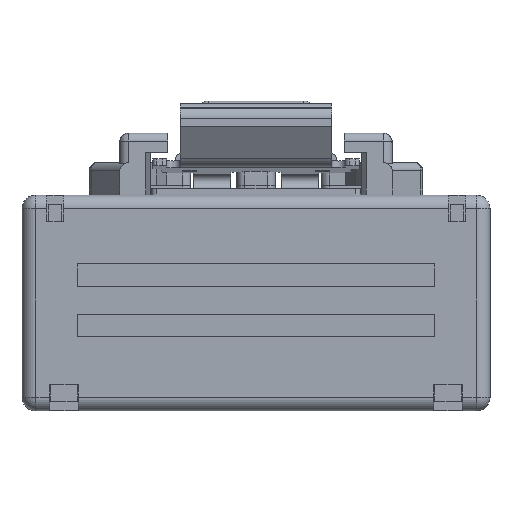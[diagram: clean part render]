
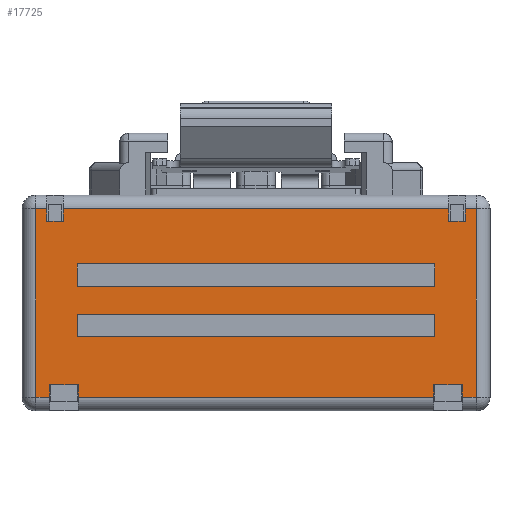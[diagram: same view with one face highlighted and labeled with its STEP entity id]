
A CAD part, front view. The second image highlights one B-rep face of the part: STEP entity #17725.
In plain terms, the highlighted planar face has unit normal (0, -1, 0).
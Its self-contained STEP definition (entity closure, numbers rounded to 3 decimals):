
#9=DIRECTION('',(1.,0.,0.));
#10=VECTOR('',#9,1.05);
#11=CARTESIAN_POINT('',(14.4,-3.25,-3.58));
#12=LINE('',#11,#10);
#5909=DIRECTION('',(0.,0.,-1.));
#5910=VECTOR('',#5909,6.84);
#5911=CARTESIAN_POINT('',(-0.05,-3.25,2.81));
#5912=LINE('',#5911,#5910);
#5913=DIRECTION('',(1.,0.,0.));
#5914=VECTOR('',#5913,13.);
#5915=CARTESIAN_POINT('',(1.45,-3.25,-0.01));
#5916=LINE('',#5915,#5914);
#5917=DIRECTION('',(0.,0.,1.));
#5918=VECTOR('',#5917,0.82);
#5919=CARTESIAN_POINT('',(14.45,-3.25,-0.01));
#5920=LINE('',#5919,#5918);
#5921=DIRECTION('',(1.,0.,0.));
#5922=VECTOR('',#5921,13.);
#5923=CARTESIAN_POINT('',(1.45,-3.25,0.81));
#5924=LINE('',#5923,#5922);
#5925=DIRECTION('',(0.,0.,-1.));
#5926=VECTOR('',#5925,0.82);
#5927=CARTESIAN_POINT('',(1.45,-3.25,0.81));
#5928=LINE('',#5927,#5926);
#5929=DIRECTION('',(-1.,0.,0.));
#5930=VECTOR('',#5929,0.5);
#5931=CARTESIAN_POINT('',(0.45,-3.25,-4.03));
#5932=LINE('',#5931,#5930);
#5933=DIRECTION('',(0.,0.,-1.));
#5934=VECTOR('',#5933,6.84);
#5935=CARTESIAN_POINT('',(15.95,-3.25,2.81));
#5936=LINE('',#5935,#5934);
#5937=DIRECTION('',(-1.,0.,0.));
#5938=VECTOR('',#5937,0.5);
#5939=CARTESIAN_POINT('',(15.95,-3.25,-4.03));
#5940=LINE('',#5939,#5938);
#5941=DIRECTION('',(0.,0.,1.));
#5942=VECTOR('',#5941,0.45);
#5943=CARTESIAN_POINT('',(15.45,-3.25,-4.03));
#5944=LINE('',#5943,#5942);
#5945=DIRECTION('',(0.,0.,-1.));
#5946=VECTOR('',#5945,0.45);
#5947=CARTESIAN_POINT('',(0.45,-3.25,-3.58));
#5948=LINE('',#5947,#5946);
#5949=DIRECTION('',(-1.,0.,0.));
#5950=VECTOR('',#5949,13.);
#5951=CARTESIAN_POINT('',(14.45,-3.25,-1.01));
#5952=LINE('',#5951,#5950);
#5953=DIRECTION('',(0.,0.,-1.));
#5954=VECTOR('',#5953,0.82);
#5955=CARTESIAN_POINT('',(1.45,-3.25,-1.01));
#5956=LINE('',#5955,#5954);
#5957=DIRECTION('',(-1.,0.,0.));
#5958=VECTOR('',#5957,13.);
#5959=CARTESIAN_POINT('',(14.45,-3.25,-1.83));
#5960=LINE('',#5959,#5958);
#5961=DIRECTION('',(0.,0.,1.));
#5962=VECTOR('',#5961,0.82);
#5963=CARTESIAN_POINT('',(14.45,-3.25,-1.83));
#5964=LINE('',#5963,#5962);
#6018=DIRECTION('',(1.,0.,0.));
#6019=VECTOR('',#6018,1.05);
#6020=CARTESIAN_POINT('',(0.45,-3.25,-3.58));
#6021=LINE('',#6020,#6019);
#6039=DIRECTION('',(0.,0.,-1.));
#6040=VECTOR('',#6039,0.45);
#6041=CARTESIAN_POINT('',(1.5,-3.25,-3.58));
#6042=LINE('',#6041,#6040);
#6047=DIRECTION('',(1.,0.,0.));
#6048=VECTOR('',#6047,12.9);
#6049=CARTESIAN_POINT('',(1.5,-3.25,-4.03));
#6050=LINE('',#6049,#6048);
#6056=DIRECTION('',(0.,0.,1.));
#6057=VECTOR('',#6056,0.45);
#6058=CARTESIAN_POINT('',(14.4,-3.25,-4.03));
#6059=LINE('',#6058,#6057);
#6131=DIRECTION('',(-1.,0.,0.));
#6132=VECTOR('',#6131,0.4);
#6133=CARTESIAN_POINT('',(15.95,-3.25,2.81));
#6134=LINE('',#6133,#6132);
#6140=DIRECTION('',(0.,0.,-1.));
#6141=VECTOR('',#6140,0.45);
#6142=CARTESIAN_POINT('',(15.55,-3.25,2.81));
#6143=LINE('',#6142,#6141);
#6160=DIRECTION('',(-1.,0.,0.));
#6161=VECTOR('',#6160,0.6);
#6162=CARTESIAN_POINT('',(15.55,-3.25,2.36));
#6163=LINE('',#6162,#6161);
#6181=DIRECTION('',(0.,0.,1.));
#6182=VECTOR('',#6181,0.45);
#6183=CARTESIAN_POINT('',(14.95,-3.25,2.36));
#6184=LINE('',#6183,#6182);
#6189=DIRECTION('',(-1.,0.,0.));
#6190=VECTOR('',#6189,14.);
#6191=CARTESIAN_POINT('',(14.95,-3.25,2.81));
#6192=LINE('',#6191,#6190);
#6198=DIRECTION('',(0.,0.,-1.));
#6199=VECTOR('',#6198,0.45);
#6200=CARTESIAN_POINT('',(0.95,-3.25,2.81));
#6201=LINE('',#6200,#6199);
#6218=DIRECTION('',(-1.,0.,0.));
#6219=VECTOR('',#6218,0.6);
#6220=CARTESIAN_POINT('',(0.95,-3.25,2.36));
#6221=LINE('',#6220,#6219);
#6235=DIRECTION('',(0.,0.,1.));
#6236=VECTOR('',#6235,0.45);
#6237=CARTESIAN_POINT('',(0.35,-3.25,2.36));
#6238=LINE('',#6237,#6236);
#6239=DIRECTION('',(-1.,0.,0.));
#6240=VECTOR('',#6239,0.4);
#6241=CARTESIAN_POINT('',(0.35,-3.25,2.81));
#6242=LINE('',#6241,#6240);
#8206=CARTESIAN_POINT('',(15.95,-3.25,2.81));
#8207=VERTEX_POINT('',#8206);
#8210=CARTESIAN_POINT('',(15.95,-3.25,-4.03));
#8212=VERTEX_POINT('',#8210);
#8214=CARTESIAN_POINT('',(15.45,-3.25,-4.03));
#8216=VERTEX_POINT('',#8214);
#8218=CARTESIAN_POINT('',(15.45,-3.25,-3.58));
#8219=VERTEX_POINT('',#8218);
#8246=CARTESIAN_POINT('',(0.45,-3.25,-4.03));
#8247=VERTEX_POINT('',#8246);
#8249=CARTESIAN_POINT('',(0.45,-3.25,-3.58));
#8251=VERTEX_POINT('',#8249);
#8254=CARTESIAN_POINT('',(-0.05,-3.25,-4.03));
#8255=VERTEX_POINT('',#8254);
#8256=CARTESIAN_POINT('',(-0.05,-3.25,2.81));
#8257=VERTEX_POINT('',#8256);
#8258=CARTESIAN_POINT('',(0.35,-3.25,2.81));
#8259=VERTEX_POINT('',#8258);
#8260=CARTESIAN_POINT('',(0.95,-3.25,2.36));
#8261=CARTESIAN_POINT('',(0.35,-3.25,2.36));
#8262=VERTEX_POINT('',#8260);
#8263=VERTEX_POINT('',#8261);
#8264=CARTESIAN_POINT('',(0.95,-3.25,2.81));
#8265=VERTEX_POINT('',#8264);
#8266=CARTESIAN_POINT('',(14.95,-3.25,2.81));
#8267=VERTEX_POINT('',#8266);
#8268=CARTESIAN_POINT('',(15.55,-3.25,2.36));
#8269=CARTESIAN_POINT('',(14.95,-3.25,2.36));
#8270=VERTEX_POINT('',#8268);
#8271=VERTEX_POINT('',#8269);
#8272=CARTESIAN_POINT('',(15.55,-3.25,2.81));
#8273=VERTEX_POINT('',#8272);
#8274=CARTESIAN_POINT('',(14.4,-3.25,-3.58));
#8275=VERTEX_POINT('',#8274);
#8276=CARTESIAN_POINT('',(14.4,-3.25,-4.03));
#8277=VERTEX_POINT('',#8276);
#8278=CARTESIAN_POINT('',(1.5,-3.25,-4.03));
#8279=VERTEX_POINT('',#8278);
#8280=CARTESIAN_POINT('',(1.5,-3.25,-3.58));
#8281=VERTEX_POINT('',#8280);
#8907=CARTESIAN_POINT('',(1.45,-3.25,0.81));
#8908=CARTESIAN_POINT('',(1.45,-3.25,-0.01));
#8909=VERTEX_POINT('',#8907);
#8910=VERTEX_POINT('',#8908);
#8911=CARTESIAN_POINT('',(14.45,-3.25,0.81));
#8912=VERTEX_POINT('',#8911);
#8913=CARTESIAN_POINT('',(14.45,-3.25,-0.01));
#8914=VERTEX_POINT('',#8913);
#8915=CARTESIAN_POINT('',(14.45,-3.25,-1.83));
#8916=CARTESIAN_POINT('',(1.45,-3.25,-1.83));
#8917=VERTEX_POINT('',#8915);
#8918=VERTEX_POINT('',#8916);
#8919=CARTESIAN_POINT('',(1.45,-3.25,-1.01));
#8920=VERTEX_POINT('',#8919);
#8921=CARTESIAN_POINT('',(14.45,-3.25,-1.01));
#8922=VERTEX_POINT('',#8921);
#17660=CARTESIAN_POINT('',(7.95,-3.25,-0.61));
#17661=DIRECTION('',(0.,1.,0.));
#17662=DIRECTION('',(-1.,0.,0.));
#17663=AXIS2_PLACEMENT_3D('',#17660,#17661,#17662);
#17664=PLANE('',#17663);
#17666=ORIENTED_EDGE('',*,*,#17665,.T.);
#17667=ORIENTED_EDGE('',*,*,#17651,.F.);
#17669=ORIENTED_EDGE('',*,*,#17668,.F.);
#17671=ORIENTED_EDGE('',*,*,#17670,.F.);
#17673=ORIENTED_EDGE('',*,*,#17672,.F.);
#17675=ORIENTED_EDGE('',*,*,#17674,.F.);
#17677=ORIENTED_EDGE('',*,*,#17676,.F.);
#17679=ORIENTED_EDGE('',*,*,#17678,.F.);
#17681=ORIENTED_EDGE('',*,*,#17680,.F.);
#17683=ORIENTED_EDGE('',*,*,#17682,.F.);
#17685=ORIENTED_EDGE('',*,*,#17684,.F.);
#17687=ORIENTED_EDGE('',*,*,#17686,.T.);
#17689=ORIENTED_EDGE('',*,*,#17688,.T.);
#17691=ORIENTED_EDGE('',*,*,#17690,.T.);
#17692=ORIENTED_EDGE('',*,*,#9082,.F.);
#17694=ORIENTED_EDGE('',*,*,#17693,.F.);
#17696=ORIENTED_EDGE('',*,*,#17695,.F.);
#17698=ORIENTED_EDGE('',*,*,#17697,.F.);
#17700=ORIENTED_EDGE('',*,*,#17699,.F.);
#17702=ORIENTED_EDGE('',*,*,#17701,.T.);
#17703=EDGE_LOOP('',(#17666,#17667,#17669,#17671,#17673,#17675,#17677,#17679,
#17681,#17683,#17685,#17687,#17689,#17691,#17692,#17694,#17696,#17698,#17700,
#17702));
#17704=FACE_OUTER_BOUND('',#17703,.F.);
#17706=ORIENTED_EDGE('',*,*,#17705,.T.);
#17708=ORIENTED_EDGE('',*,*,#17707,.T.);
#17710=ORIENTED_EDGE('',*,*,#17709,.F.);
#17712=ORIENTED_EDGE('',*,*,#17711,.T.);
#17713=EDGE_LOOP('',(#17706,#17708,#17710,#17712));
#17714=FACE_BOUND('',#17713,.F.);
#17716=ORIENTED_EDGE('',*,*,#17715,.T.);
#17718=ORIENTED_EDGE('',*,*,#17717,.T.);
#17720=ORIENTED_EDGE('',*,*,#17719,.F.);
#17722=ORIENTED_EDGE('',*,*,#17721,.T.);
#17723=EDGE_LOOP('',(#17716,#17718,#17720,#17722));
#17724=FACE_BOUND('',#17723,.F.);
#17725=ADVANCED_FACE('',(#17704,#17714,#17724),#17664,.F.);
#9082=EDGE_CURVE('',#8275,#8219,#12,.T.);
#17651=EDGE_CURVE('',#8257,#8255,#5912,.T.);
#17665=EDGE_CURVE('',#8247,#8255,#5932,.T.);
#17668=EDGE_CURVE('',#8259,#8257,#6242,.T.);
#17670=EDGE_CURVE('',#8263,#8259,#6238,.T.);
#17672=EDGE_CURVE('',#8262,#8263,#6221,.T.);
#17674=EDGE_CURVE('',#8265,#8262,#6201,.T.);
#17676=EDGE_CURVE('',#8267,#8265,#6192,.T.);
#17678=EDGE_CURVE('',#8271,#8267,#6184,.T.);
#17680=EDGE_CURVE('',#8270,#8271,#6163,.T.);
#17682=EDGE_CURVE('',#8273,#8270,#6143,.T.);
#17684=EDGE_CURVE('',#8207,#8273,#6134,.T.);
#17686=EDGE_CURVE('',#8207,#8212,#5936,.T.);
#17688=EDGE_CURVE('',#8212,#8216,#5940,.T.);
#17690=EDGE_CURVE('',#8216,#8219,#5944,.T.);
#17693=EDGE_CURVE('',#8277,#8275,#6059,.T.);
#17695=EDGE_CURVE('',#8279,#8277,#6050,.T.);
#17697=EDGE_CURVE('',#8281,#8279,#6042,.T.);
#17699=EDGE_CURVE('',#8251,#8281,#6021,.T.);
#17701=EDGE_CURVE('',#8251,#8247,#5948,.T.);
#17705=EDGE_CURVE('',#8910,#8914,#5916,.T.);
#17707=EDGE_CURVE('',#8914,#8912,#5920,.T.);
#17709=EDGE_CURVE('',#8909,#8912,#5924,.T.);
#17711=EDGE_CURVE('',#8909,#8910,#5928,.T.);
#17715=EDGE_CURVE('',#8922,#8920,#5952,.T.);
#17717=EDGE_CURVE('',#8920,#8918,#5956,.T.);
#17719=EDGE_CURVE('',#8917,#8918,#5960,.T.);
#17721=EDGE_CURVE('',#8917,#8922,#5964,.T.);
